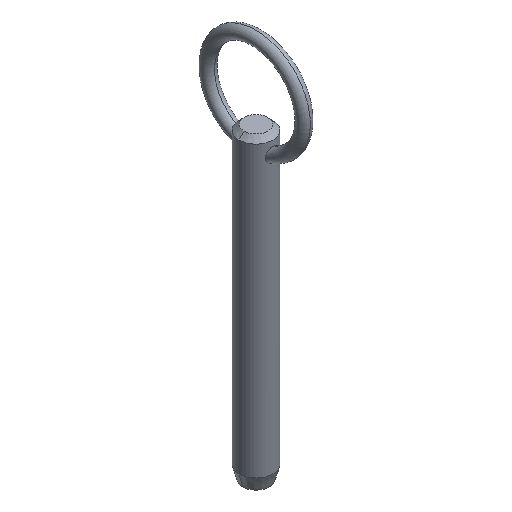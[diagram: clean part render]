
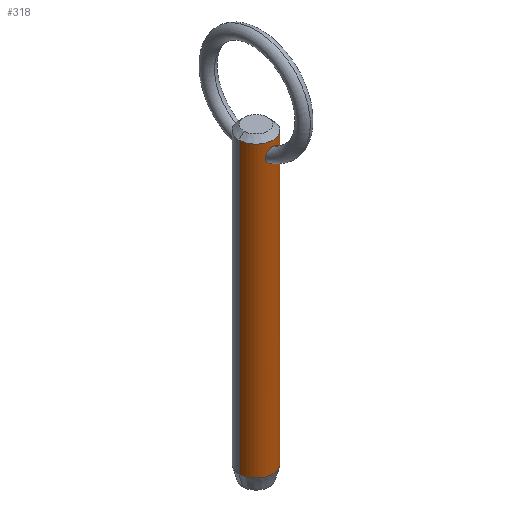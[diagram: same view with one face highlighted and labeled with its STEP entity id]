
A CAD part, isometric view. The second image highlights one B-rep face of the part: STEP entity #318.
In plain terms, the highlighted cylindrical face has radius 3.965 mm (diameter 7.93 mm), a partial arc.
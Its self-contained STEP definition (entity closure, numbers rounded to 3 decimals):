
#12 = CARTESIAN_POINT ( 'NONE',  ( 3.965, 0., 55.9 ) ) ;
#17 = CARTESIAN_POINT ( 'NONE',  ( 1.471, -3.682, 57.694 ) ) ;
#19 = B_SPLINE_CURVE_WITH_KNOTS ( 'NONE', 3,
 ( #142, #464, #501, #265, #63, #348, #311, #191, #25, #69, #347, #104, #352, #507, #112, #241, #402, #29, #437, #268, #512, #30 ),
 .UNSPECIFIED., .F., .F.,
 ( 4, 2, 2, 2, 2, 2, 2, 2, 2, 2, 4 ),
 ( 0.009, 0.01, 0.01, 0.011, 0.011, 0.012, 0.012, 0.013, 0.013, 0.014, 0.014 ),
 .UNSPECIFIED. ) ;
#25 = CARTESIAN_POINT ( 'NONE',  ( -1.379, -3.718, 57.403 ) ) ;
#26 = ORIENTED_EDGE ( 'NONE', *, *, #416, .T. ) ;
#27 = EDGE_CURVE ( 'NONE', #236, #303, #113, .T. ) ;
#29 = CARTESIAN_POINT ( 'NONE',  ( -0.498, -3.935, 59.644 ) ) ;
#30 = CARTESIAN_POINT ( 'NONE',  ( 0., -3.965, 59.747 ) ) ;
#47 = CARTESIAN_POINT ( 'NONE',  ( 1.291, -3.75, 58.883 ) ) ;
#50 = CARTESIAN_POINT ( 'NONE',  ( 1.186, -3.786, 59.059 ) ) ;
#53 = EDGE_CURVE ( 'NONE', #405, #430, #291, .T. ) ;
#55 = CARTESIAN_POINT ( 'NONE',  ( 0.205, -3.965, 56.535 ) ) ;
#63 = CARTESIAN_POINT ( 'NONE',  ( -0.957, -3.85, 56.841 ) ) ;
#69 = CARTESIAN_POINT ( 'NONE',  ( -1.48, -3.679, 57.689 ) ) ;
#87 = AXIS2_PLACEMENT_3D ( 'NONE', #187, #428, #186 ) ;
#91 = CARTESIAN_POINT ( 'NONE',  ( 1.503, -3.669, 57.999 ) ) ;
#94 = EDGE_LOOP ( 'NONE', ( #109, #176 ) ) ;
#97 = CARTESIAN_POINT ( 'NONE',  ( 1.028, -3.83, 56.915 ) ) ;
#104 = CARTESIAN_POINT ( 'NONE',  ( -1.488, -3.675, 58.305 ) ) ;
#109 = ORIENTED_EDGE ( 'NONE', *, *, #53, .T. ) ;
#112 = CARTESIAN_POINT ( 'NONE',  ( -1.186, -3.786, 59.06 ) ) ;
#113 = LINE ( 'NONE', #12, #495 ) ;
#114 = CARTESIAN_POINT ( 'NONE',  ( 0., -3.965, 59.747 ) ) ;
#126 = CIRCLE ( 'NONE', #413, 3.965 ) ;
#127 = CARTESIAN_POINT ( 'NONE',  ( 0.205, -3.961, 59.734 ) ) ;
#136 = AXIS2_PLACEMENT_3D ( 'NONE', #227, #466, #363 ) ;
#142 = CARTESIAN_POINT ( 'NONE',  ( 0., -3.965, 56.535 ) ) ;
#146 = CARTESIAN_POINT ( 'NONE',  ( 0., 0., -6.52 ) ) ;
#154 = ORIENTED_EDGE ( 'NONE', *, *, #465, .T. ) ;
#176 = ORIENTED_EDGE ( 'NONE', *, *, #316, .T. ) ;
#186 = DIRECTION ( 'NONE',  ( 1., 0., 0. ) ) ;
#187 = CARTESIAN_POINT ( 'NONE',  ( 0., 0., 61.05 ) ) ;
#191 = CARTESIAN_POINT ( 'NONE',  ( -1.335, -3.734, 57.31 ) ) ;
#192 = CARTESIAN_POINT ( 'NONE',  ( -3.965, 0., -6.52 ) ) ;
#199 = CARTESIAN_POINT ( 'NONE',  ( 0., -3.965, 56.535 ) ) ;
#210 = DIRECTION ( 'NONE',  ( 0., 0., -1. ) ) ;
#216 = CARTESIAN_POINT ( 'NONE',  ( 0.409, -3.948, 56.574 ) ) ;
#217 = CARTESIAN_POINT ( 'NONE',  ( 1.346, -3.73, 57.308 ) ) ;
#218 = CARTESIAN_POINT ( 'NONE',  ( 0.782, -3.888, 56.737 ) ) ;
#227 = CARTESIAN_POINT ( 'NONE',  ( 0., 0., 55.9 ) ) ;
#236 = VERTEX_POINT ( 'NONE', #299 ) ;
#241 = CARTESIAN_POINT ( 'NONE',  ( -0.925, -3.858, 59.368 ) ) ;
#244 = DIRECTION ( 'NONE',  ( 0., 0., -1. ) ) ;
#248 = CARTESIAN_POINT ( 'NONE',  ( 0.498, -3.935, 59.644 ) ) ;
#250 = FACE_BOUND ( 'NONE', #94, .T. ) ;
#261 = CYLINDRICAL_SURFACE ( 'NONE', #136, 3.965 ) ;
#265 = CARTESIAN_POINT ( 'NONE',  ( -0.788, -3.891, 56.728 ) ) ;
#268 = CARTESIAN_POINT ( 'NONE',  ( -0.206, -3.961, 59.734 ) ) ;
#273 = CARTESIAN_POINT ( 'NONE',  ( -3.965, 0., 55.9 ) ) ;
#274 = EDGE_LOOP ( 'NONE', ( #420, #448, #154, #26 ) ) ;
#284 = CARTESIAN_POINT ( 'NONE',  ( 0., -3.965, 59.747 ) ) ;
#286 = CARTESIAN_POINT ( 'NONE',  ( 0.77, -3.894, 59.5 ) ) ;
#291 = B_SPLINE_CURVE_WITH_KNOTS ( 'NONE', 3,
 ( #284, #378, #127, #374, #248, #286, #375, #50, #47, #328, #447, #415, #334, #91, #414, #17, #379, #217, #388, #97, #454, #218, #337, #216, #55, #451 ),
 .UNSPECIFIED., .F., .F.,
 ( 4, 2, 2, 2, 2, 2, 2, 2, 2, 2, 2, 2, 4 ),
 ( 0.004, 0.005, 0.005, 0.005, 0.006, 0.006, 0.007, 0.007, 0.007, 0.008, 0.008, 0.008, 0.009 ),
 .UNSPECIFIED. ) ;
#295 = EDGE_CURVE ( 'NONE', #236, #477, #382, .T. ) ;
#296 = LINE ( 'NONE', #273, #332 ) ;
#299 = CARTESIAN_POINT ( 'NONE',  ( 3.965, 0., 61.05 ) ) ;
#303 = VERTEX_POINT ( 'NONE', #394 ) ;
#311 = CARTESIAN_POINT ( 'NONE',  ( -1.229, -3.77, 57.139 ) ) ;
#316 = EDGE_CURVE ( 'NONE', #430, #405, #19, .T. ) ;
#318 = ADVANCED_FACE ( 'NONE', ( #444, #250 ), #261, .T. ) ;
#322 = CARTESIAN_POINT ( 'NONE',  ( -3.965, 0., 61.05 ) ) ;
#328 = CARTESIAN_POINT ( 'NONE',  ( 1.404, -3.708, 58.601 ) ) ;
#332 = VECTOR ( 'NONE', #244, 1000. ) ;
#334 = CARTESIAN_POINT ( 'NONE',  ( 1.493, -3.673, 58.204 ) ) ;
#337 = CARTESIAN_POINT ( 'NONE',  ( 0.693, -3.905, 56.69 ) ) ;
#347 = CARTESIAN_POINT ( 'NONE',  ( -1.508, -3.667, 57.897 ) ) ;
#348 = CARTESIAN_POINT ( 'NONE',  ( -1.168, -3.79, 57.059 ) ) ;
#352 = CARTESIAN_POINT ( 'NONE',  ( -1.441, -3.695, 58.508 ) ) ;
#363 = DIRECTION ( 'NONE',  ( -1., 0., 0. ) ) ;
#374 = CARTESIAN_POINT ( 'NONE',  ( 0.404, -3.946, 59.682 ) ) ;
#375 = CARTESIAN_POINT ( 'NONE',  ( 0.925, -3.858, 59.368 ) ) ;
#378 = CARTESIAN_POINT ( 'NONE',  ( 0.102, -3.965, 59.747 ) ) ;
#379 = CARTESIAN_POINT ( 'NONE',  ( 1.447, -3.692, 57.593 ) ) ;
#382 = CIRCLE ( 'NONE', #87, 3.965 ) ;
#388 = CARTESIAN_POINT ( 'NONE',  ( 1.237, -3.77, 57.131 ) ) ;
#394 = CARTESIAN_POINT ( 'NONE',  ( 3.965, 0., -6.52 ) ) ;
#402 = CARTESIAN_POINT ( 'NONE',  ( -0.77, -3.894, 59.5 ) ) ;
#405 = VERTEX_POINT ( 'NONE', #114 ) ;
#406 = DIRECTION ( 'NONE',  ( 0., 0., 1. ) ) ;
#413 = AXIS2_PLACEMENT_3D ( 'NONE', #146, #406, #436 ) ;
#414 = CARTESIAN_POINT ( 'NONE',  ( 1.499, -3.671, 57.897 ) ) ;
#415 = CARTESIAN_POINT ( 'NONE',  ( 1.479, -3.679, 58.307 ) ) ;
#416 = EDGE_CURVE ( 'NONE', #425, #303, #126, .T. ) ;
#420 = ORIENTED_EDGE ( 'NONE', *, *, #27, .F. ) ;
#425 = VERTEX_POINT ( 'NONE', #192 ) ;
#428 = DIRECTION ( 'NONE',  ( 0., 0., -1. ) ) ;
#430 = VERTEX_POINT ( 'NONE', #199 ) ;
#436 = DIRECTION ( 'NONE',  ( -1., 0., 0. ) ) ;
#437 = CARTESIAN_POINT ( 'NONE',  ( -0.403, -3.946, 59.682 ) ) ;
#444 = FACE_OUTER_BOUND ( 'NONE', #274, .T. ) ;
#447 = CARTESIAN_POINT ( 'NONE',  ( 1.434, -3.697, 58.505 ) ) ;
#448 = ORIENTED_EDGE ( 'NONE', *, *, #295, .T. ) ;
#451 = CARTESIAN_POINT ( 'NONE',  ( 0., -3.965, 56.535 ) ) ;
#454 = CARTESIAN_POINT ( 'NONE',  ( 0.949, -3.851, 56.849 ) ) ;
#464 = CARTESIAN_POINT ( 'NONE',  ( -0.205, -3.965, 56.535 ) ) ;
#465 = EDGE_CURVE ( 'NONE', #477, #425, #296, .T. ) ;
#466 = DIRECTION ( 'NONE',  ( 0., 0., -1. ) ) ;
#477 = VERTEX_POINT ( 'NONE', #322 ) ;
#495 = VECTOR ( 'NONE', #210, 1000. ) ;
#501 = CARTESIAN_POINT ( 'NONE',  ( -0.41, -3.948, 56.574 ) ) ;
#507 = CARTESIAN_POINT ( 'NONE',  ( -1.29, -3.75, 58.885 ) ) ;
#512 = CARTESIAN_POINT ( 'NONE',  ( -0.102, -3.965, 59.747 ) ) ;
